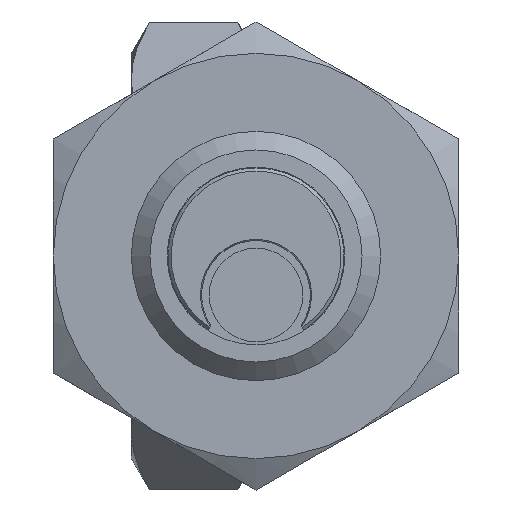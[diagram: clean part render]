
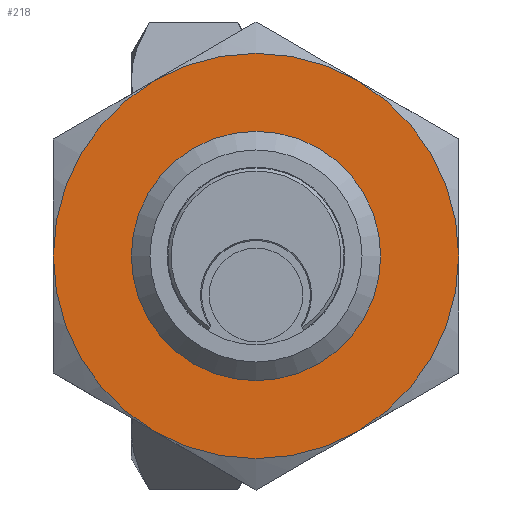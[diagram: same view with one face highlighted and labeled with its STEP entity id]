
A CAD part, left-side view. The second image highlights one B-rep face of the part: STEP entity #218.
In plain terms, the highlighted planar face has unit normal (-1, 0, 0) as drawn and (0, 1, 0) by its records, which use the part's own axes.
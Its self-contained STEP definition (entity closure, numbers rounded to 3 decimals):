
#218 = ADVANCED_FACE( '', ( #336, #337 ), #338, .F. );
#336 = FACE_BOUND( '', #422, .T. );
#337 = FACE_OUTER_BOUND( '', #423, .T. );
#338 = PLANE( '', #424 );
#422 = EDGE_LOOP( '', ( #656 ) );
#423 = EDGE_LOOP( '', ( #657, #658, #659, #660, #661, #662 ) );
#424 = AXIS2_PLACEMENT_3D( '', #663, #664, #665 );
#656 = ORIENTED_EDGE( '', *, *, #765, .T. );
#657 = ORIENTED_EDGE( '', *, *, #767, .F. );
#658 = ORIENTED_EDGE( '', *, *, #736, .F. );
#659 = ORIENTED_EDGE( '', *, *, #768, .F. );
#660 = ORIENTED_EDGE( '', *, *, #762, .F. );
#661 = ORIENTED_EDGE( '', *, *, #761, .F. );
#662 = ORIENTED_EDGE( '', *, *, #764, .F. );
#663 = CARTESIAN_POINT( '', ( -13., 4., 0. ) );
#664 = DIRECTION( '', ( 0., -1., 0. ) );
#665 = DIRECTION( '', ( 0., 0., -1. ) );
#736 = EDGE_CURVE( '', #851, #852, #853, .T. );
#761 = EDGE_CURVE( '', #845, #833, #890, .T. );
#762 = EDGE_CURVE( '', #833, #891, #892, .T. );
#764 = EDGE_CURVE( '', #887, #845, #894, .T. );
#765 = EDGE_CURVE( '', #895, #895, #896, .T. );
#767 = EDGE_CURVE( '', #852, #887, #898, .T. );
#768 = EDGE_CURVE( '', #891, #851, #899, .T. );
#833 = VERTEX_POINT( '', #964 );
#845 = VERTEX_POINT( '', #1002 );
#851 = VERTEX_POINT( '', #1032 );
#852 = VERTEX_POINT( '', #1033 );
#853 = CIRCLE( '', #1034, 6.5 );
#887 = VERTEX_POINT( '', #1139 );
#890 = CIRCLE( '', #1152, 6.5 );
#891 = VERTEX_POINT( '', #1153 );
#892 = CIRCLE( '', #1154, 6.5 );
#894 = CIRCLE( '', #1161, 6.5 );
#895 = VERTEX_POINT( '', #1162 );
#896 = CIRCLE( '', #1163, 3.459 );
#898 = CIRCLE( '', #1170, 6.5 );
#899 = CIRCLE( '', #1171, 6.5 );
#964 = CARTESIAN_POINT( '', ( -3.25, 4., 5.629 ) );
#1002 = CARTESIAN_POINT( '', ( 3.25, 4., 5.629 ) );
#1032 = CARTESIAN_POINT( '', ( -3.25, 4., -5.629 ) );
#1033 = CARTESIAN_POINT( '', ( 3.25, 4., -5.629 ) );
#1034 = AXIS2_PLACEMENT_3D( '', #1201, #1202, #1203 );
#1139 = CARTESIAN_POINT( '', ( 6.5, 4., 0. ) );
#1152 = AXIS2_PLACEMENT_3D( '', #1228, #1229, #1230 );
#1153 = CARTESIAN_POINT( '', ( -6.5, 4., 0. ) );
#1154 = AXIS2_PLACEMENT_3D( '', #1231, #1232, #1233 );
#1161 = AXIS2_PLACEMENT_3D( '', #1234, #1235, #1236 );
#1162 = CARTESIAN_POINT( '', ( 0., 4., -3.459 ) );
#1163 = AXIS2_PLACEMENT_3D( '', #1237, #1238, #1239 );
#1170 = AXIS2_PLACEMENT_3D( '', #1240, #1241, #1242 );
#1171 = AXIS2_PLACEMENT_3D( '', #1243, #1244, #1245 );
#1201 = CARTESIAN_POINT( '', ( 0., 4., 0. ) );
#1202 = DIRECTION( '', ( 0., -1., 0. ) );
#1203 = DIRECTION( '', ( 0., 0., -1. ) );
#1228 = CARTESIAN_POINT( '', ( 0., 4., 0. ) );
#1229 = DIRECTION( '', ( 0., -1., 0. ) );
#1230 = DIRECTION( '', ( 0., 0., -1. ) );
#1231 = CARTESIAN_POINT( '', ( 0., 4., 0. ) );
#1232 = DIRECTION( '', ( 0., -1., 0. ) );
#1233 = DIRECTION( '', ( 0., 0., -1. ) );
#1234 = CARTESIAN_POINT( '', ( 0., 4., 0. ) );
#1235 = DIRECTION( '', ( 0., -1., 0. ) );
#1236 = DIRECTION( '', ( 0., 0., -1. ) );
#1237 = CARTESIAN_POINT( '', ( 0., 4., 0. ) );
#1238 = DIRECTION( '', ( 0., -1., 0. ) );
#1239 = DIRECTION( '', ( 0., 0., -1. ) );
#1240 = CARTESIAN_POINT( '', ( 0., 4., 0. ) );
#1241 = DIRECTION( '', ( 0., -1., 0. ) );
#1242 = DIRECTION( '', ( 0., 0., -1. ) );
#1243 = CARTESIAN_POINT( '', ( 0., 4., 0. ) );
#1244 = DIRECTION( '', ( 0., -1., 0. ) );
#1245 = DIRECTION( '', ( 0., 0., -1. ) );
